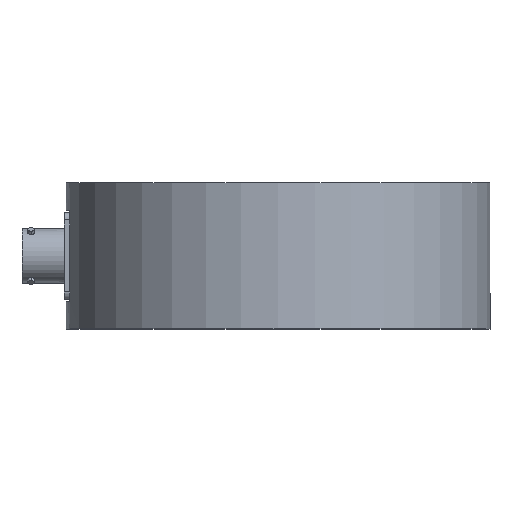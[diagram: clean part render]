
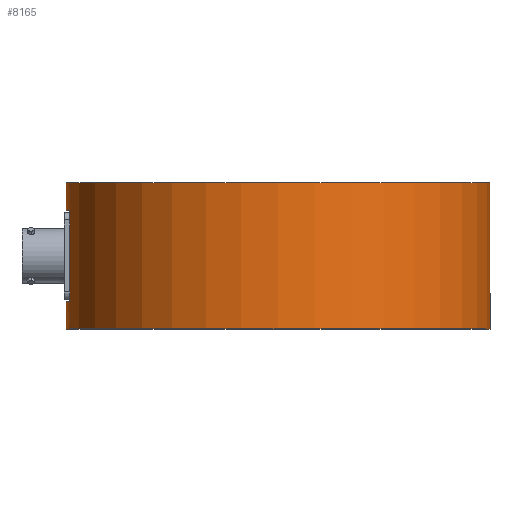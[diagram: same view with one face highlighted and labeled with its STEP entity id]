
A CAD part, top view. The second image highlights one B-rep face of the part: STEP entity #8165.
In plain terms, the highlighted cylindrical face has radius 58 mm (diameter 116 mm), a partial arc.
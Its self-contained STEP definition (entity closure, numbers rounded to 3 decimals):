
#128 = ORIENTED_EDGE ( 'NONE', *, *, #7575, .F. ) ;
#349 = CIRCLE ( 'NONE', #3262, 58. ) ;
#384 = CARTESIAN_POINT ( 'NONE',  ( -58., 40., 0. ) ) ;
#549 = CARTESIAN_POINT ( 'NONE',  ( 0., 40., 0. ) ) ;
#739 = CARTESIAN_POINT ( 'NONE',  ( -57., 32.5, 10.724 ) ) ;
#802 = CARTESIAN_POINT ( 'NONE',  ( 0., 7.5, 0. ) ) ;
#1065 = CIRCLE ( 'NONE', #3445, 58. ) ;
#1192 = DIRECTION ( 'NONE',  ( 0., 1., 0. ) ) ;
#1476 = DIRECTION ( 'NONE',  ( -1., 0., 0. ) ) ;
#1532 = EDGE_CURVE ( 'NONE', #7121, #5318, #3136, .T. ) ;
#1737 = DIRECTION ( 'NONE',  ( 1., 0., 0. ) ) ;
#1955 = CARTESIAN_POINT ( 'NONE',  ( 58., 40., 0. ) ) ;
#1984 = CARTESIAN_POINT ( 'NONE',  ( 58., 40., 0. ) ) ;
#2098 = DIRECTION ( 'NONE',  ( 0., 1., 0. ) ) ;
#2270 = AXIS2_PLACEMENT_3D ( 'NONE', #549, #11672, #1476 ) ;
#3136 = LINE ( 'NONE', #1984, #11161 ) ;
#3262 = AXIS2_PLACEMENT_3D ( 'NONE', #802, #7287, #1737 ) ;
#3385 = CYLINDRICAL_SURFACE ( 'NONE', #2270, 58. ) ;
#3435 = CARTESIAN_POINT ( 'NONE',  ( 0., 0., 0. ) ) ;
#3445 = AXIS2_PLACEMENT_3D ( 'NONE', #4044, #10549, #4994 ) ;
#3694 = FACE_OUTER_BOUND ( 'NONE', #12007, .T. ) ;
#3957 = CARTESIAN_POINT ( 'NONE',  ( -57., 7.5, 10.724 ) ) ;
#4044 = CARTESIAN_POINT ( 'NONE',  ( 0., 32.5, 0. ) ) ;
#4373 = DIRECTION ( 'NONE',  ( -1., 0., 0. ) ) ;
#4709 = CARTESIAN_POINT ( 'NONE',  ( -58., 32.5, 0. ) ) ;
#4879 = CARTESIAN_POINT ( 'NONE',  ( -58., 40., 0. ) ) ;
#4887 = DIRECTION ( 'NONE',  ( 0., 1., 0. ) ) ;
#4941 = CARTESIAN_POINT ( 'NONE',  ( -57., 40., 10.724 ) ) ;
#4994 = DIRECTION ( 'NONE',  ( -1., 0., 0. ) ) ;
#5025 = ORIENTED_EDGE ( 'NONE', *, *, #7788, .F. ) ;
#5318 = VERTEX_POINT ( 'NONE', #1955 ) ;
#5343 = CARTESIAN_POINT ( 'NONE',  ( -58., 7.5, 0. ) ) ;
#5606 = VERTEX_POINT ( 'NONE', #5343 ) ;
#5614 = CARTESIAN_POINT ( 'NONE',  ( -58., 0., 0. ) ) ;
#5842 = EDGE_CURVE ( 'NONE', #8431, #5606, #6028, .T. ) ;
#5961 = ORIENTED_EDGE ( 'NONE', *, *, #8562, .F. ) ;
#6028 = LINE ( 'NONE', #384, #8527 ) ;
#6298 = LINE ( 'NONE', #6696, #10966 ) ;
#6493 = CARTESIAN_POINT ( 'NONE',  ( 58., 0., 0. ) ) ;
#6696 = CARTESIAN_POINT ( 'NONE',  ( -58., 40., 0. ) ) ;
#6700 = VERTEX_POINT ( 'NONE', #3957 ) ;
#6788 = DIRECTION ( 'NONE',  ( 0., -1., 0. ) ) ;
#7013 = VERTEX_POINT ( 'NONE', #739 ) ;
#7121 = VERTEX_POINT ( 'NONE', #6493 ) ;
#7164 = VERTEX_POINT ( 'NONE', #4709 ) ;
#7287 = DIRECTION ( 'NONE',  ( 0., 1., 0. ) ) ;
#7540 = ORIENTED_EDGE ( 'NONE', *, *, #9342, .T. ) ;
#7575 = EDGE_CURVE ( 'NONE', #5606, #6700, #349, .T. ) ;
#7594 = LINE ( 'NONE', #4941, #11957 ) ;
#7767 = EDGE_CURVE ( 'NONE', #7164, #8522, #6298, .T. ) ;
#7788 = EDGE_CURVE ( 'NONE', #8522, #5318, #9067, .T. ) ;
#7828 = ORIENTED_EDGE ( 'NONE', *, *, #7767, .F. ) ;
#8165 = ADVANCED_FACE ( 'NONE', ( #3694 ), #3385, .T. ) ;
#8311 = AXIS2_PLACEMENT_3D ( 'NONE', #3435, #9940, #4373 ) ;
#8431 = VERTEX_POINT ( 'NONE', #5614 ) ;
#8522 = VERTEX_POINT ( 'NONE', #4879 ) ;
#8527 = VECTOR ( 'NONE', #1192, 1000. ) ;
#8562 = EDGE_CURVE ( 'NONE', #7013, #7164, #1065, .T. ) ;
#8871 = AXIS2_PLACEMENT_3D ( 'NONE', #10444, #4887, #11385 ) ;
#9002 = ORIENTED_EDGE ( 'NONE', *, *, #1532, .T. ) ;
#9067 = CIRCLE ( 'NONE', #8871, 58. ) ;
#9342 = EDGE_CURVE ( 'NONE', #7013, #6700, #7594, .T. ) ;
#9401 = DIRECTION ( 'NONE',  ( 0., 1., 0. ) ) ;
#9836 = ORIENTED_EDGE ( 'NONE', *, *, #5842, .F. ) ;
#9940 = DIRECTION ( 'NONE',  ( 0., 1., 0. ) ) ;
#10444 = CARTESIAN_POINT ( 'NONE',  ( 0., 40., 0. ) ) ;
#10549 = DIRECTION ( 'NONE',  ( 0., -1., 0. ) ) ;
#10952 = EDGE_CURVE ( 'NONE', #8431, #7121, #11550, .T. ) ;
#10966 = VECTOR ( 'NONE', #2098, 1000. ) ;
#11161 = VECTOR ( 'NONE', #9401, 1000. ) ;
#11385 = DIRECTION ( 'NONE',  ( -1., 0., 0. ) ) ;
#11550 = CIRCLE ( 'NONE', #8311, 58. ) ;
#11672 = DIRECTION ( 'NONE',  ( 0., 1., 0. ) ) ;
#11955 = ORIENTED_EDGE ( 'NONE', *, *, #10952, .T. ) ;
#11957 = VECTOR ( 'NONE', #6788, 1000. ) ;
#12007 = EDGE_LOOP ( 'NONE', ( #11955, #9002, #5025, #7828, #5961, #7540, #128, #9836 ) ) ;
